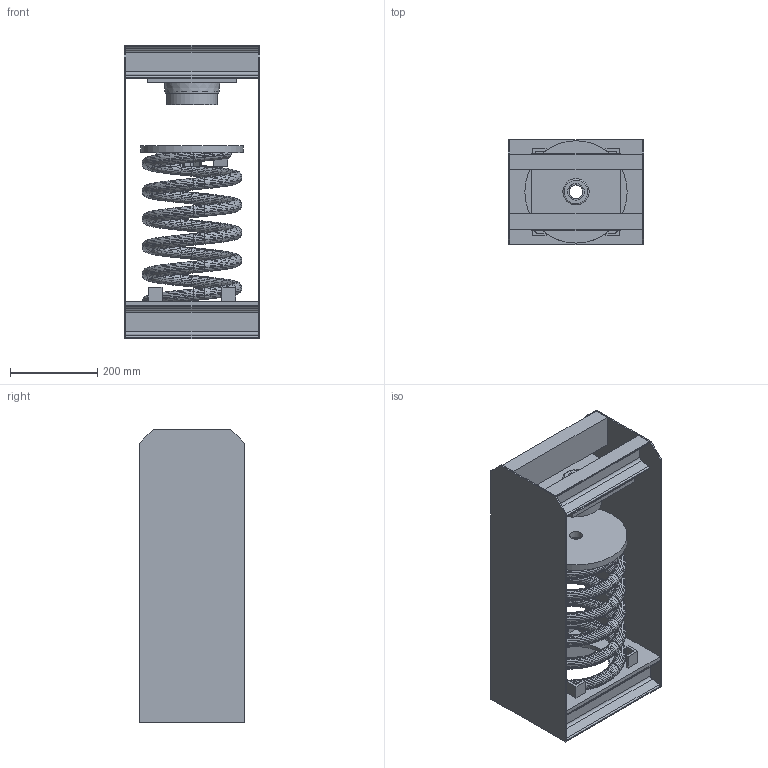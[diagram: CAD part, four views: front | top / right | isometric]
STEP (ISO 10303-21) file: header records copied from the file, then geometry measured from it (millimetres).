
FILE_DESCRIPTION(/* description */ (''),/* implementation_level */ '2;1');
FILE_NAME(/* name */ 'C:\001_Work\Designs\HANGER BOXES\30N 100 SERIES\30N-189\30N-189.stp',/* time_stamp */ '2015-06-16T13:50:33-04:00',/* author */ ('rramoutar'),/* organization */ ('Mason Industries Inc.'),/* preprocessor_version */ 'ST-DEVELOPER v15.6',/* originating_system */ 'Autodesk Inventor 2015',/* authorisation */ '');
FILE_SCHEMA (('AUTOMOTIVE_DESIGN { 1 0 10303 214 3 1 1 }'));
Products named in the file (1): 30N-189
Bounding box: 311.15 x 241.3 x 673.1 mm (x, y, z)
Volume: 4473865.4 mm3; surface area: 2017208.8 mm2
Topology: 20 solids, 20 shells, 701 faces, 1488 edges, 833 vertices
Faces by surface type: bspline 496, plane 148, cylinder 55, cone 1, torus 1
Full cylindrical faces by diameter (mm): 30.162 x1, 31.75 x1, 38.1 x2, 47.625 x4, 60.325 x1, 107.95 x2, 117.475 x1, 122.237 x2, 152.4 x1, 234.95 x1
Entity records: 38258 total; most frequent: CARTESIAN_POINT 26106, ORIENTED_EDGE 2936, EDGE_CURVE 1468, B_SPLINE_CURVE_WITH_KNOTS 1000, DIRECTION 995, VERTEX_POINT 831, EDGE_LOOP 739, STYLED_ITEM 721
